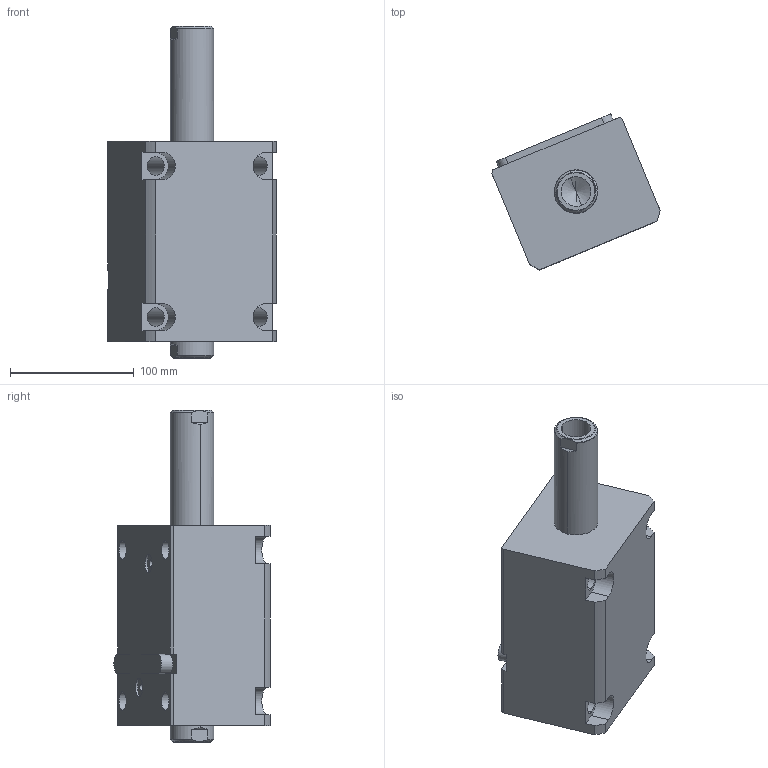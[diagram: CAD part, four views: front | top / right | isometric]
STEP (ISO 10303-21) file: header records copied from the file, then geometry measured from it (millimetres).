
FILE_DESCRIPTION (( 'STEP AP214' ), '1' );
FILE_NAME ('chtb-lwm63x80n_asm.STEP', '2018-05-22T02:21:08', ( 'Windows' ), ( 'Microsoft' ), 'SwSTEP 2.0', 'SolidWorks 2015', '' );
FILE_SCHEMA (( 'AUTOMOTIVE_DESIGN' ));
Length unit declared in the file: millimetre
Products named in the file (5): CHTB-SW63X80NHSG; CHTB-LWM63X80NBT; CHTB-LA63PJ; CHTB-63QG; chtb-lwm63x80n_asm
Assembly tree (4 placements, depth 2):
  chtb-lwm63x80n_asm
    CHTB-63QG
    CHTB-LA63PJ
    CHTB-LWM63X80NBT
    CHTB-SW63X80NHSG
Bounding box: 135.77 x 126.06 x 268 mm (x, y, z)
Volume: 1474599.8 mm3; surface area: 195057.1 mm2
Topology: 4 solids, 4 shells, 186 faces, 543 edges, 367 vertices
Faces by surface type: cylinder 103, plane 47, bspline 12, cone 12, torus 12
Entity records: 18665 total; most frequent: CARTESIAN_POINT 13839, ORIENTED_EDGE 1070, DIRECTION 834, EDGE_CURVE 535, VERTEX_POINT 367, AXIS2_PLACEMENT_3D 318, EDGE_LOOP 212, VECTOR 198
